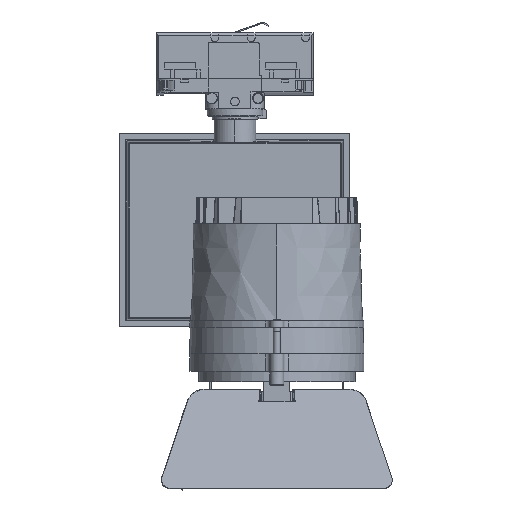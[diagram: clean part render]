
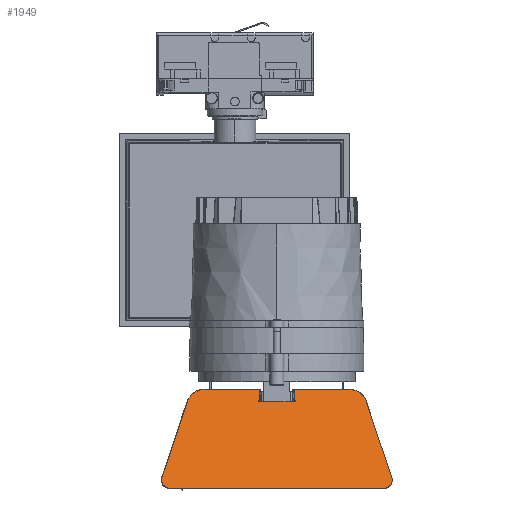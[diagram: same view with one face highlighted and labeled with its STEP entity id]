
A CAD part, left-side view. The second image highlights one B-rep face of the part: STEP entity #1949.
In plain terms, the highlighted planar face has unit normal (-0.947, -0.002, 0.321).
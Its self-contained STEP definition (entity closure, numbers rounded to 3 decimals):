
#1949=ADVANCED_FACE('',(#3327),#30090,.T.);
#3327=FACE_OUTER_BOUND('',#4738,.T.);
#4738=EDGE_LOOP('',(#7224,#7225,#7226,#7227,#7228,#7229,#7230,#7231,#7232,
#7233,#7234,#7235,#7236,#7237));
#7224=ORIENTED_EDGE('',*,*,#14117,.T.);
#7225=ORIENTED_EDGE('',*,*,#14029,.F.);
#7226=ORIENTED_EDGE('',*,*,#14038,.T.);
#7227=ORIENTED_EDGE('',*,*,#14071,.T.);
#7228=ORIENTED_EDGE('',*,*,#14067,.T.);
#7229=ORIENTED_EDGE('',*,*,#14065,.T.);
#7230=ORIENTED_EDGE('',*,*,#14039,.T.);
#7231=ORIENTED_EDGE('',*,*,#14061,.T.);
#7232=ORIENTED_EDGE('',*,*,#14057,.T.);
#7233=ORIENTED_EDGE('',*,*,#14055,.T.);
#7234=ORIENTED_EDGE('',*,*,#14040,.T.);
#7235=ORIENTED_EDGE('',*,*,#14041,.T.);
#7236=ORIENTED_EDGE('',*,*,#14114,.T.);
#7237=ORIENTED_EDGE('',*,*,#14047,.T.);
#14029=EDGE_CURVE('',#25275,#25272,#19464,.T.);
#14038=EDGE_CURVE('',#25275,#25285,#19471,.T.);
#14039=EDGE_CURVE('',#25288,#25289,#19472,.T.);
#14040=EDGE_CURVE('',#25292,#25293,#19473,.T.);
#14041=EDGE_CURVE('',#25293,#25294,#19474,.T.);
#14047=EDGE_CURVE('',#25295,#25284,#19480,.T.);
#14055=EDGE_CURVE('',#25291,#25292,#22519,.T.);
#14057=EDGE_CURVE('',#25290,#25291,#19488,.T.);
#14061=EDGE_CURVE('',#25289,#25290,#22521,.T.);
#14065=EDGE_CURVE('',#25287,#25288,#22523,.T.);
#14067=EDGE_CURVE('',#25286,#25287,#19494,.T.);
#14071=EDGE_CURVE('',#25285,#25286,#22525,.T.);
#14114=EDGE_CURVE('',#25294,#25295,#22551,.T.);
#14117=EDGE_CURVE('',#25284,#25272,#22553,.T.);
#19464=B_SPLINE_CURVE_WITH_KNOTS('',1,(#37300,#37301),.UNSPECIFIED.,.F.,
 .F.,(2,2),(0.,6.5),.UNSPECIFIED.);
#19471=B_SPLINE_CURVE_WITH_KNOTS('',1,(#37320,#37321),.UNSPECIFIED.,.F.,
 .F.,(2,2),(0.,31.727),.UNSPECIFIED.);
#19472=B_SPLINE_CURVE_WITH_KNOTS('',1,(#37322,#37323),.UNSPECIFIED.,.F.,
 .F.,(2,2),(0.,122.344),.UNSPECIFIED.);
#19473=B_SPLINE_CURVE_WITH_KNOTS('',1,(#37324,#37325),.UNSPECIFIED.,.F.,
 .F.,(2,2),(0.,31.727),.UNSPECIFIED.);
#19474=B_SPLINE_CURVE_WITH_KNOTS('',1,(#37326,#37327),.UNSPECIFIED.,.F.,
 .F.,(2,2),(-6.5,0.),.UNSPECIFIED.);
#19480=B_SPLINE_CURVE_WITH_KNOTS('',1,(#37338,#37339),.UNSPECIFIED.,.F.,
 .F.,(2,2),(0.,19.9),.UNSPECIFIED.);
#19488=B_SPLINE_CURVE_WITH_KNOTS('',1,(#37360,#37361),.UNSPECIFIED.,.F.,
 .F.,(2,2),(0.,48.786),.UNSPECIFIED.);
#19494=B_SPLINE_CURVE_WITH_KNOTS('',1,(#37392,#37393),.UNSPECIFIED.,.F.,
 .F.,(2,2),(0.,48.786),.UNSPECIFIED.);
#22519=(
BOUNDED_CURVE()
B_SPLINE_CURVE(2,(#37355,#37356,#37357),.UNSPECIFIED.,.F.,.F.)
B_SPLINE_CURVE_WITH_KNOTS((3,3),(0.,12.641),.UNSPECIFIED.)
CURVE()
GEOMETRIC_REPRESENTATION_ITEM()
RATIONAL_B_SPLINE_CURVE((1.,0.807,1.))
REPRESENTATION_ITEM('')
);
#22521=(
BOUNDED_CURVE()
B_SPLINE_CURVE(2,(#37371,#37372,#37373,#37374,#37375),.UNSPECIFIED.,.F.,
 .F.)
B_SPLINE_CURVE_WITH_KNOTS((3,2,3),(0.,4.694,9.387),
 .UNSPECIFIED.)
CURVE()
GEOMETRIC_REPRESENTATION_ITEM()
RATIONAL_B_SPLINE_CURVE((1.,0.892,1.,0.892,1.))
REPRESENTATION_ITEM('')
);
#22523=(
BOUNDED_CURVE()
B_SPLINE_CURVE(2,(#37385,#37386,#37387,#37388,#37389),.UNSPECIFIED.,.F.,
 .F.)
B_SPLINE_CURVE_WITH_KNOTS((3,2,3),(0.,4.694,9.387),
 .UNSPECIFIED.)
CURVE()
GEOMETRIC_REPRESENTATION_ITEM()
RATIONAL_B_SPLINE_CURVE((1.,0.892,1.,0.892,1.))
REPRESENTATION_ITEM('')
);
#22525=(
BOUNDED_CURVE()
B_SPLINE_CURVE(2,(#37401,#37402,#37403),.UNSPECIFIED.,.F.,.F.)
B_SPLINE_CURVE_WITH_KNOTS((3,3),(0.,12.641),.UNSPECIFIED.)
CURVE()
GEOMETRIC_REPRESENTATION_ITEM()
RATIONAL_B_SPLINE_CURVE((1.,0.807,1.))
REPRESENTATION_ITEM('')
);
#22551=(
BOUNDED_CURVE()
B_SPLINE_CURVE(2,(#37525,#37526,#37527,#37528,#37529),.UNSPECIFIED.,.F.,
 .F.)
B_SPLINE_CURVE_WITH_KNOTS((3,2,3),(0.,0.785,1.571),
 .UNSPECIFIED.)
CURVE()
GEOMETRIC_REPRESENTATION_ITEM()
RATIONAL_B_SPLINE_CURVE((1.,0.707,1.,0.707,1.))
REPRESENTATION_ITEM('')
);
#22553=(
BOUNDED_CURVE()
B_SPLINE_CURVE(2,(#37537,#37538,#37539,#37540,#37541),.UNSPECIFIED.,.F.,
 .F.)
B_SPLINE_CURVE_WITH_KNOTS((3,2,3),(-1.571,-0.785,
0.),.UNSPECIFIED.)
CURVE()
GEOMETRIC_REPRESENTATION_ITEM()
RATIONAL_B_SPLINE_CURVE((1.,0.707,1.,0.707,1.))
REPRESENTATION_ITEM('')
);
#25272=VERTEX_POINT('',#37224);
#25275=VERTEX_POINT('',#37227);
#25284=VERTEX_POINT('',#37236);
#25285=VERTEX_POINT('',#37237);
#25286=VERTEX_POINT('',#37238);
#25287=VERTEX_POINT('',#37239);
#25288=VERTEX_POINT('',#37240);
#25289=VERTEX_POINT('',#37241);
#25290=VERTEX_POINT('',#37242);
#25291=VERTEX_POINT('',#37243);
#25292=VERTEX_POINT('',#37244);
#25293=VERTEX_POINT('',#37245);
#25294=VERTEX_POINT('',#37246);
#25295=VERTEX_POINT('',#37247);
#30090=PLANE('',#31500);
#31500=AXIS2_PLACEMENT_3D('',#36953,#32002,$);
#32002=DIRECTION('',(-0.947,-0.002,0.321));
#36953=CARTESIAN_POINT('',(-81.086,-32.148,-108.41));
#37224=CARTESIAN_POINT('',(-85.271,57.885,-120.334));
#37227=CARTESIAN_POINT('',(-83.186,57.888,-114.177));
#37236=CARTESIAN_POINT('',(-85.591,57.885,-121.281));
#37237=CARTESIAN_POINT('',(-83.239,89.616,-114.177));
#37238=CARTESIAN_POINT('',(-85.493,99.145,-120.79));
#37239=CARTESIAN_POINT('',(-100.431,113.849,-164.843));
#37240=CARTESIAN_POINT('',(-102.511,109.079,-171.009));
#37241=CARTESIAN_POINT('',(-102.31,-13.265,-171.009));
#37242=CARTESIAN_POINT('',(-100.215,-18.028,-164.843));
#37243=CARTESIAN_POINT('',(-85.325,-3.276,-120.79));
#37244=CARTESIAN_POINT('',(-83.102,6.261,-114.177));
#37245=CARTESIAN_POINT('',(-83.154,37.989,-114.177));
#37246=CARTESIAN_POINT('',(-85.238,37.985,-120.334));
#37247=CARTESIAN_POINT('',(-85.559,37.985,-121.281));
#37300=CARTESIAN_POINT('',(-83.186,57.888,-114.177));
#37301=CARTESIAN_POINT('',(-85.271,57.885,-120.334));
#37320=CARTESIAN_POINT('',(-83.186,57.888,-114.177));
#37321=CARTESIAN_POINT('',(-83.239,89.616,-114.177));
#37322=CARTESIAN_POINT('',(-102.511,109.079,-171.009));
#37323=CARTESIAN_POINT('',(-102.31,-13.265,-171.009));
#37324=CARTESIAN_POINT('',(-83.102,6.261,-114.177));
#37325=CARTESIAN_POINT('',(-83.154,37.989,-114.177));
#37326=CARTESIAN_POINT('',(-83.154,37.989,-114.177));
#37327=CARTESIAN_POINT('',(-85.238,37.985,-120.334));
#37338=CARTESIAN_POINT('',(-85.559,37.985,-121.281));
#37339=CARTESIAN_POINT('',(-85.591,57.885,-121.281));
#37355=CARTESIAN_POINT('',(-85.325,-3.276,-120.79));
#37356=CARTESIAN_POINT('',(-83.09,-1.061,-114.177));
#37357=CARTESIAN_POINT('',(-83.102,6.261,-114.177));
#37360=CARTESIAN_POINT('',(-100.215,-18.028,-164.843));
#37361=CARTESIAN_POINT('',(-85.325,-3.276,-120.79));
#37371=CARTESIAN_POINT('',(-102.31,-13.265,-171.009));
#37372=CARTESIAN_POINT('',(-102.306,-15.801,-171.009));
#37373=CARTESIAN_POINT('',(-101.647,-17.298,-169.071));
#37374=CARTESIAN_POINT('',(-100.989,-18.795,-167.133));
#37375=CARTESIAN_POINT('',(-100.215,-18.028,-164.843));
#37385=CARTESIAN_POINT('',(-100.431,113.849,-164.843));
#37386=CARTESIAN_POINT('',(-101.208,114.613,-167.133));
#37387=CARTESIAN_POINT('',(-101.861,113.114,-169.071));
#37388=CARTESIAN_POINT('',(-102.515,111.615,-171.009));
#37389=CARTESIAN_POINT('',(-102.511,109.079,-171.009));
#37392=CARTESIAN_POINT('',(-85.493,99.145,-120.79));
#37393=CARTESIAN_POINT('',(-100.431,113.849,-164.843));
#37401=CARTESIAN_POINT('',(-83.239,89.616,-114.177));
#37402=CARTESIAN_POINT('',(-83.251,96.938,-114.177));
#37403=CARTESIAN_POINT('',(-85.493,99.145,-120.79));
#37525=CARTESIAN_POINT('',(-85.238,37.985,-120.334));
#37526=CARTESIAN_POINT('',(-85.237,37.485,-120.334));
#37527=CARTESIAN_POINT('',(-85.398,37.485,-120.807));
#37528=CARTESIAN_POINT('',(-85.558,37.485,-121.281));
#37529=CARTESIAN_POINT('',(-85.559,37.985,-121.281));
#37537=CARTESIAN_POINT('',(-85.591,57.885,-121.281));
#37538=CARTESIAN_POINT('',(-85.592,58.385,-121.281));
#37539=CARTESIAN_POINT('',(-85.432,58.385,-120.807));
#37540=CARTESIAN_POINT('',(-85.272,58.385,-120.334));
#37541=CARTESIAN_POINT('',(-85.271,57.885,-120.334));
